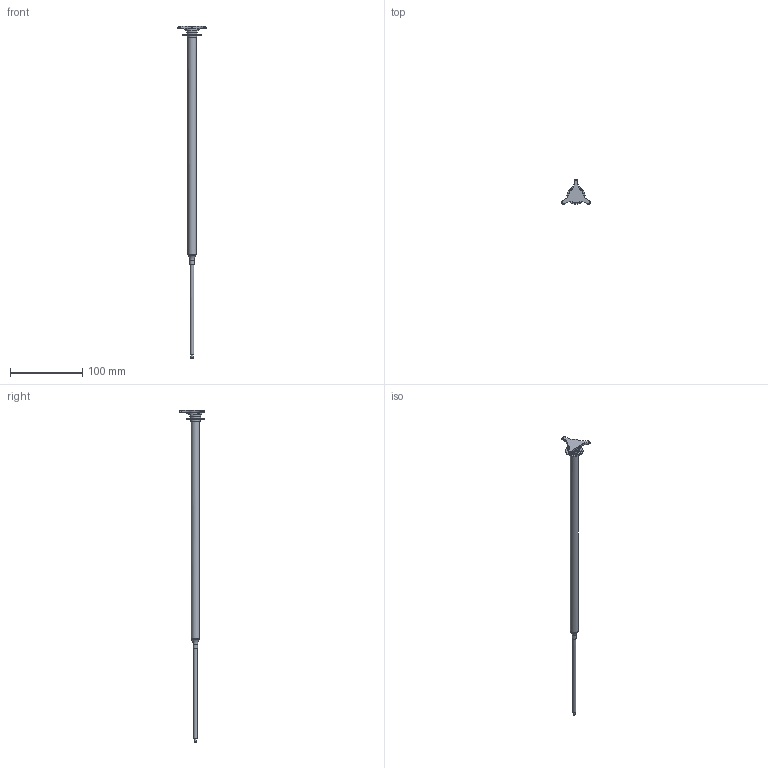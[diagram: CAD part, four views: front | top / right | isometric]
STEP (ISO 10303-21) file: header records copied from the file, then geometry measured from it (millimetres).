
FILE_DESCRIPTION(/* description */ (''),/* implementation_level */ '2;1');
FILE_NAME(/* name */ 'LA-6084-0600-A.stp',/* time_stamp */ '2014-06-03T14:42:03+01:00',/* author */ (''),/* organization */ (''),/* preprocessor_version */ 'ST-DEVELOPER v11',/* originating_system */ 'SIEMENS PLM Software NX 7.5',/* authorisation */ '');
FILE_SCHEMA (('AUTOMOTIVE_DESIGN { 1 0 10303 214 1 1 1 1 }'));
Length unit declared in the file: millimetre
Products named in the file (1): ej13DD85l5h1
Bounding box: 40.73 x 35.61 x 459.37 mm (x, y, z)
Volume: 37084.1 mm3; surface area: 15597.4 mm2
Topology: 1 solids, 1 shells, 158 faces, 494 edges, 386 vertices
Faces by surface type: plane 70, cylinder 55, cone 31, torus 2
Full cylindrical faces by diameter (mm): 1.7 x1, 2.2 x1, 3 x1, 4.65 x1, 4.8 x1, 6 x1, 11.1 x1, 11.25 x1, 13.05 x1, 13.46 x1, 15 x2, 18 x1, 25 x1
Entity records: 7212 total; most frequent: CARTESIAN_POINT 2017, ORIENTED_EDGE 908, DIRECTION 681, EDGE_CURVE 454, VERTEX_POINT 376, AXIS2_PLACEMENT_3D 287, EDGE_LOOP 235, B_SPLINE_CURVE_WITH_KNOTS 219
